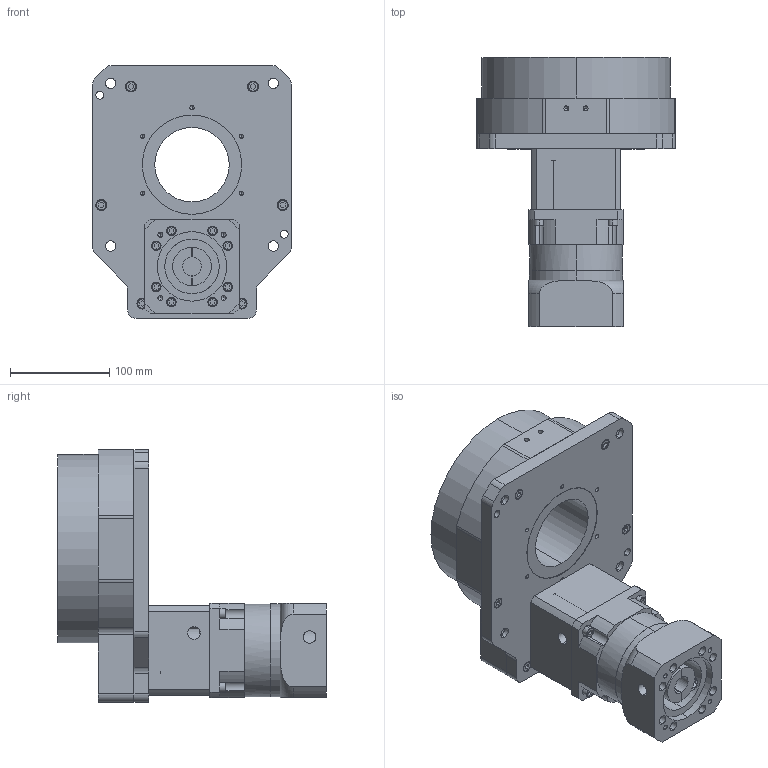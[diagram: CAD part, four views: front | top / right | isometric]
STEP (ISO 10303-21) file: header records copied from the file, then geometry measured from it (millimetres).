
FILE_DESCRIPTION (( 'STEP AP214' ), '1' );
FILE_NAME ('HRP275-H-XX-19-70-90-M6_2019.STEP', '2019-03-12T00:37:44', ( 'Y' ), ( 'NCU' ), 'SwSTEP 2.0', 'SolidWorks 2015', '' );
FILE_SCHEMA (( 'AUTOMOTIVE_DESIGN' ));
Length unit declared in the file: millimetre
Products named in the file (1): HRP275-H-XX-19-70-90-M6_2019
Bounding box: 200 x 271 x 255 mm (x, y, z)
Volume: 4149733.4 mm3; surface area: 337609.8 mm2
Topology: 1 solids, 31 shells, 759 faces, 1752 edges, 1102 vertices
Faces by surface type: plane 350, cylinder 311, cone 52, torus 46
Entity records: 24212 total; most frequent: CARTESIAN_POINT 4476, DIRECTION 3940, ORIENTED_EDGE 3400, EDGE_CURVE 1700, AXIS2_PLACEMENT_3D 1506, VERTEX_POINT 1102, LINE 928, VECTOR 928
